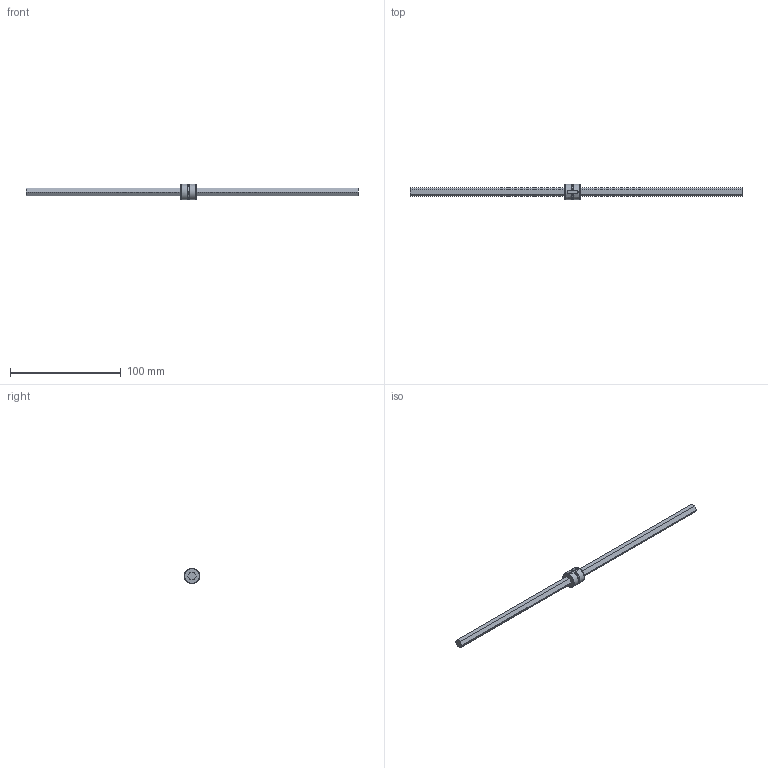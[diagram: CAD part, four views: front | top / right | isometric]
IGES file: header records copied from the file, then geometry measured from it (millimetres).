
Global section: file name: No Iges File Name specified; native system: AutoDesk Inventor R10; preprocessor: AutoDesk Inventor Iges Exporter R10; author: No Author specified; organization: No Organization specified; date: 20101224.162636; units: millimetre
Bounding box: 300 x 14 x 14 mm (x, y, z)
Surface area: 8599.7 mm2 (no closed solid volume)
Topology: 0 solids, 0 shells, 47 faces, 362 edges, 362 vertices
Faces by surface type: bspline 47
